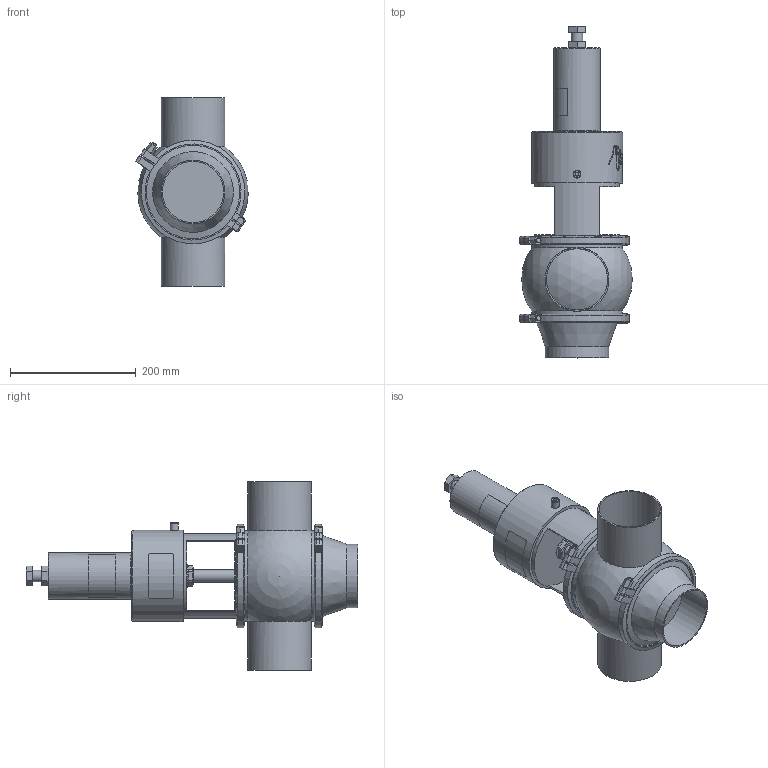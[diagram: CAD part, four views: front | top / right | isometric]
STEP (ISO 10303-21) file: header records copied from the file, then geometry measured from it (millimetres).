
FILE_DESCRIPTION (( 'STEP AP214' ), '1' );
FILE_NAME ('INNOVA J T W OD 4_10.245.16.0002.STEP', '2024-08-08T08:04:32', ( '' ), ( '' ), 'SwSTEP 2.0', 'SolidWorks 2023', '' );
FILE_SCHEMA (( 'AUTOMOTIVE_DESIGN' ));
Length unit declared in the file: millimetre
Products named in the file (6): 10.240.15.0010_DN 100; 10.245.15.0001_T3 SE NC_DN 100; 10.240.15.0001_DN 100; INNOVA J T W OD 4_10.245.16.0002; 10.247.15.0001_OD 4"; 10.240.15.0007_OD 4"
Assembly tree (6 placements, depth 2):
  INNOVA J T W OD 4_10.245.16.0002
    10.240.15.0007_OD 4"
    10.247.15.0001_OD 4"
    10.240.15.0010_DN 100
    10.245.15.0001_T3 SE NC_DN 100
    10.240.15.0001_DN 100  x2
Bounding box: 179.26 x 528.5 x 300 mm (x, y, z)
Volume: 5259855.9 mm3; surface area: 538391.3 mm2
Topology: 6 solids, 6 shells, 382 faces, 1021 edges, 672 vertices
Faces by surface type: plane 191, cylinder 82, bspline 78, cone 26, sphere 4, torus 1
Full cylindrical faces by diameter (mm): 6.15 x1, 8 x4, 10.5 x1, 12.5 x2, 18 x1, 20 x1, 36.5 x1, 74 x1, 97.4 x3, 101.6 x3, 135 x1, 144.5 x2, 145 x1, 156.5 x4
Entity records: 20122 total; most frequent: CARTESIAN_POINT 11104, ORIENTED_EDGE 1598, DIRECTION 1205, EDGE_CURVE 799, VERTEX_POINT 548, AXIS2_PLACEMENT_3D 450, EDGE_LOOP 391, FACE_OUTER_BOUND 349
